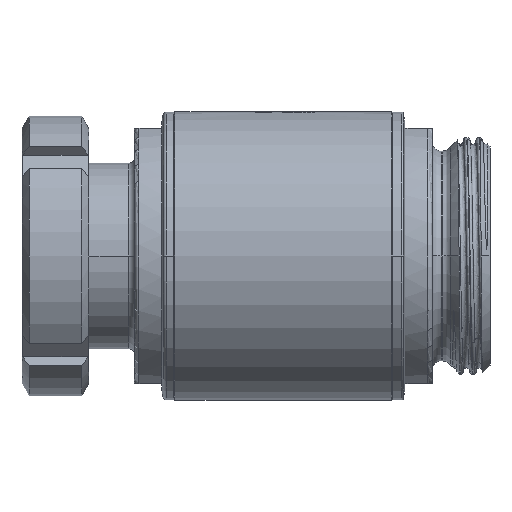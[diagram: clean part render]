
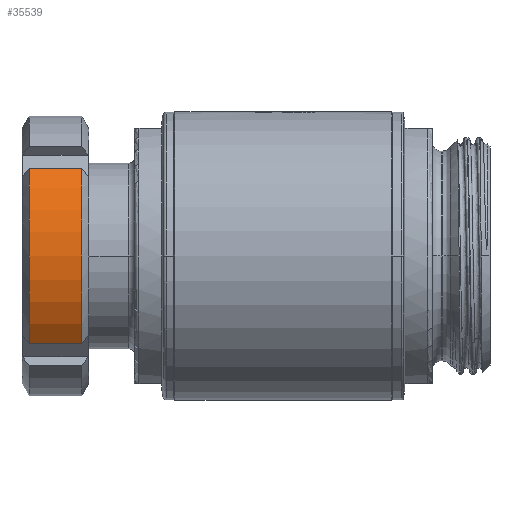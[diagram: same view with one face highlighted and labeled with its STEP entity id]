
A CAD part, front view. The second image highlights one B-rep face of the part: STEP entity #35539.
In plain terms, the highlighted cylindrical face has radius 46 mm (diameter 92 mm), a partial arc.
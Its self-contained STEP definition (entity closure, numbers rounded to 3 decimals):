
#33220=CARTESIAN_POINT('',(-66.309,0.,0.));
#33221=DIRECTION('',(1.,0.,0.));
#33222=DIRECTION('',(0.,-0.78,0.626));
#33223=AXIS2_PLACEMENT_3D('',#33220,#33221,#33222);
#33276=DIRECTION('',(-1.,0.,0.));
#33277=VECTOR('',#33276,17.381);
#33278=CARTESIAN_POINT('',(-66.309,-35.87,
28.799));
#33279=LINE('',#33278,#33277);
#33283=CARTESIAN_POINT('',(-83.691,0.,0.));
#33284=DIRECTION('',(-1.,0.,0.));
#33285=DIRECTION('',(0.,-0.78,-0.626));
#33286=AXIS2_PLACEMENT_3D('',#33283,#33284,#33285);
#33339=DIRECTION('',(-1.,0.,0.));
#33340=VECTOR('',#33339,17.381);
#33341=CARTESIAN_POINT('',(-66.309,-35.87,
-28.799));
#33342=LINE('',#33341,#33340);
#35334=CARTESIAN_POINT('',(-83.691,-35.87,
-28.799));
#35335=CARTESIAN_POINT('',(-83.691,-35.87,
28.799));
#35336=VERTEX_POINT('',#35334);
#35337=VERTEX_POINT('',#35335);
#35392=CARTESIAN_POINT('',(-66.309,-35.87,
28.799));
#35393=CARTESIAN_POINT('',(-66.309,-35.87,
-28.799));
#35394=VERTEX_POINT('',#35392);
#35395=VERTEX_POINT('',#35393);
#35524=CARTESIAN_POINT('',(-64.,0.,0.));
#35525=DIRECTION('',(-1.,0.,0.));
#35526=DIRECTION('',(0.,0.707,-0.707));
#35527=AXIS2_PLACEMENT_3D('',#35524,#35525,#35526);
#35528=CYLINDRICAL_SURFACE('',#35527,46.);
#35530=ORIENTED_EDGE('',*,*,#35529,.T.);
#35532=ORIENTED_EDGE('',*,*,#35531,.T.);
#35534=ORIENTED_EDGE('',*,*,#35533,.F.);
#35536=ORIENTED_EDGE('',*,*,#35535,.T.);
#35537=EDGE_LOOP('',(#35530,#35532,#35534,#35536));
#35538=FACE_OUTER_BOUND('',#35537,.F.);
#35539=ADVANCED_FACE('',(#35538),#35528,.T.);
#33224=CIRCLE('',#33223,46.);
#33287=CIRCLE('',#33286,46.);
#35529=EDGE_CURVE('',#35395,#35336,#33342,.T.);
#35531=EDGE_CURVE('',#35336,#35337,#33287,.T.);
#35533=EDGE_CURVE('',#35394,#35337,#33279,.T.);
#35535=EDGE_CURVE('',#35394,#35395,#33224,.T.);
